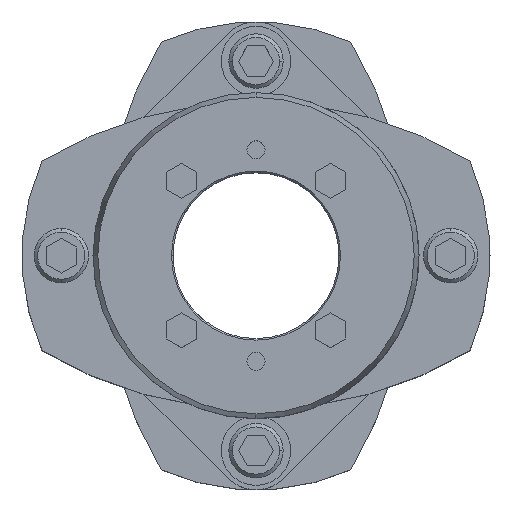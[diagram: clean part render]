
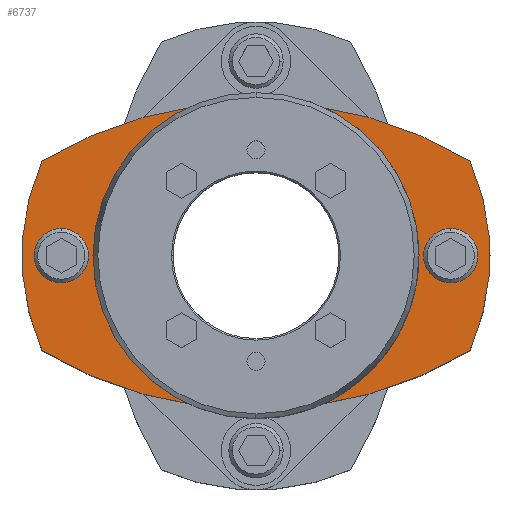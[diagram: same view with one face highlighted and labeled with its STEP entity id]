
A CAD part, top view. The second image highlights one B-rep face of the part: STEP entity #6737.
In plain terms, the highlighted planar face has unit normal (0, 0, 1).
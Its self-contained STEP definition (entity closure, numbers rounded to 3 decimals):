
#1593=CARTESIAN_POINT('',(0.,51.,42.0));
#1594=VERTEX_POINT('',#1593);
#1610=CARTESIAN_POINT('',(-70.841,31.43,42.0));
#1611=VERTEX_POINT('',#1610);
#1618=CARTESIAN_POINT('',(0.,-87.,42.0));
#1619=DIRECTION('',(0.0,0.0,-1.0));
#1620=DIRECTION('',(0.0,1.0,0.0));
#1621=AXIS2_PLACEMENT_3D('',#1618,#1619,#1620);
#1622=CIRCLE('',#1621,138.);
#1623=EDGE_CURVE('',#1611,#1594,#1622,.T.);
#1633=CARTESIAN_POINT('',(0.,-51.,42.0));
#1634=VERTEX_POINT('',#1633);
#1643=CARTESIAN_POINT('',(-70.841,-31.43,42.0));
#1644=VERTEX_POINT('',#1643);
#1645=CARTESIAN_POINT('',(0.,87.,42.0));
#1646=DIRECTION('',(0.0,0.0,-1.0));
#1647=DIRECTION('',(0.0,1.0,0.0));
#1648=AXIS2_PLACEMENT_3D('',#1645,#1646,#1647);
#1649=CIRCLE('',#1648,138.);
#1650=EDGE_CURVE('',#1634,#1644,#1649,.T.);
#1899=CARTESIAN_POINT('',(0.,41.,42.0));
#1900=VERTEX_POINT('',#1899);
#1950=CARTESIAN_POINT('',(0.,-41.,42.0));
#1951=VERTEX_POINT('',#1950);
#1958=CARTESIAN_POINT('',(0.,0.,42.0));
#1959=DIRECTION('',(0.0,0.0,-1.0));
#1960=DIRECTION('',(0.0,1.0,0.0));
#1961=AXIS2_PLACEMENT_3D('',#1958,#1959,#1960);
#1962=CIRCLE('',#1961,41.0);
#1963=EDGE_CURVE('',#1900,#1951,#1962,.T.);
#2059=CARTESIAN_POINT('',(-64.5,9.,42.0));
#2060=VERTEX_POINT('',#2059);
#2076=CARTESIAN_POINT('',(-64.5,-9.,42.0));
#2077=VERTEX_POINT('',#2076);
#2084=CARTESIAN_POINT('',(-64.5,0.,42.0));
#2085=DIRECTION('',(0.0,0.0,-1.0));
#2086=DIRECTION('',(0.0,1.0,0.0));
#2087=AXIS2_PLACEMENT_3D('',#2084,#2085,#2086);
#2088=CIRCLE('',#2087,9.0);
#2089=EDGE_CURVE('',#2060,#2077,#2088,.T.);
#2133=CARTESIAN_POINT('',(64.5,9.,42.0));
#2134=VERTEX_POINT('',#2133);
#2150=CARTESIAN_POINT('',(64.5,-9.,42.0));
#2151=VERTEX_POINT('',#2150);
#2158=CARTESIAN_POINT('',(64.5,0.,42.0));
#2159=DIRECTION('',(0.0,0.0,-1.0));
#2160=DIRECTION('',(0.0,1.0,0.0));
#2161=AXIS2_PLACEMENT_3D('',#2158,#2159,#2160);
#2162=CIRCLE('',#2161,9.0);
#2163=EDGE_CURVE('',#2134,#2151,#2162,.T.);
#5278=CARTESIAN_POINT('',(64.5,0.,42.0));
#5279=DIRECTION('',(0.0,0.0,-1.0));
#5280=DIRECTION('',(0.0,1.0,0.0));
#5281=AXIS2_PLACEMENT_3D('',#5278,#5279,#5280);
#5282=CIRCLE('',#5281,9.0);
#5283=EDGE_CURVE('',#2151,#2134,#5282,.T.);
#5338=CARTESIAN_POINT('',(-64.5,0.,42.0));
#5339=DIRECTION('',(0.0,0.0,-1.0));
#5340=DIRECTION('',(0.0,1.0,0.0));
#5341=AXIS2_PLACEMENT_3D('',#5338,#5339,#5340);
#5342=CIRCLE('',#5341,9.0);
#5343=EDGE_CURVE('',#2077,#2060,#5342,.T.);
#6410=CARTESIAN_POINT('',(0.,0.,42.0));
#6411=DIRECTION('',(0.0,0.0,-1.0));
#6412=DIRECTION('',(0.0,1.0,0.0));
#6413=AXIS2_PLACEMENT_3D('',#6410,#6411,#6412);
#6414=CIRCLE('',#6413,41.0);
#6415=EDGE_CURVE('',#1951,#1900,#6414,.T.);
#6631=CARTESIAN_POINT('',(70.841,31.43,42.0));
#6632=VERTEX_POINT('',#6631);
#6633=CARTESIAN_POINT('',(70.841,-31.43,42.0));
#6634=VERTEX_POINT('',#6633);
#6635=CARTESIAN_POINT('',(0.,0.,42.0));
#6636=DIRECTION('',(0.0,0.0,-1.0));
#6637=DIRECTION('',(0.0,1.0,0.0));
#6638=AXIS2_PLACEMENT_3D('',#6635,#6636,#6637);
#6639=CIRCLE('',#6638,77.5);
#6640=EDGE_CURVE('',#6632,#6634,#6639,.T.);
#6666=CARTESIAN_POINT('',(0.,87.,42.0));
#6667=DIRECTION('',(0.0,0.0,-1.0));
#6668=DIRECTION('',(0.0,1.0,0.0));
#6669=AXIS2_PLACEMENT_3D('',#6666,#6667,#6668);
#6670=CIRCLE('',#6669,138.);
#6671=EDGE_CURVE('',#6634,#1634,#6670,.T.);
#6681=CARTESIAN_POINT('',(0.,0.,42.0));
#6682=DIRECTION('',(0.0,0.0,-1.0));
#6683=DIRECTION('',(0.0,1.0,0.0));
#6684=AXIS2_PLACEMENT_3D('',#6681,#6682,#6683);
#6685=CIRCLE('',#6684,77.5);
#6686=EDGE_CURVE('',#1644,#1611,#6685,.T.);
#6700=CARTESIAN_POINT('',(0.,-87.,42.0));
#6701=DIRECTION('',(0.0,0.0,-1.0));
#6702=DIRECTION('',(0.0,1.0,0.0));
#6703=AXIS2_PLACEMENT_3D('',#6700,#6701,#6702);
#6704=CIRCLE('',#6703,138.);
#6705=EDGE_CURVE('',#1594,#6632,#6704,.T.);
#6712=CARTESIAN_POINT('',(0.,0.,42.0));
#6713=DIRECTION('',(0.0,0.0,1.0));
#6714=DIRECTION('',(0.0,1.0,0.0));
#6715=AXIS2_PLACEMENT_3D('',#6712,#6713,#6714);
#6716=PLANE('',#6715);
#6717=ORIENTED_EDGE('',*,*,#6640,.F.);
#6718=ORIENTED_EDGE('',*,*,#6705,.F.);
#6719=ORIENTED_EDGE('',*,*,#1623,.F.);
#6720=ORIENTED_EDGE('',*,*,#6686,.F.);
#6721=ORIENTED_EDGE('',*,*,#1650,.F.);
#6722=ORIENTED_EDGE('',*,*,#6671,.F.);
#6723=EDGE_LOOP('',(#6717,#6718,#6719,#6720,#6721,#6722));
#6724=FACE_OUTER_BOUND('',#6723,.T.);
#6725=ORIENTED_EDGE('',*,*,#2163,.T.);
#6726=ORIENTED_EDGE('',*,*,#5283,.T.);
#6727=EDGE_LOOP('',(#6725,#6726));
#6728=FACE_BOUND('',#6727,.T.);
#6729=ORIENTED_EDGE('',*,*,#2089,.T.);
#6730=ORIENTED_EDGE('',*,*,#5343,.T.);
#6731=EDGE_LOOP('',(#6729,#6730));
#6732=FACE_BOUND('',#6731,.T.);
#6733=ORIENTED_EDGE('',*,*,#1963,.T.);
#6734=ORIENTED_EDGE('',*,*,#6415,.T.);
#6735=EDGE_LOOP('',(#6733,#6734));
#6736=FACE_BOUND('',#6735,.T.);
#6737=ADVANCED_FACE('',(#6724,#6728,#6732,#6736),#6716,.T.);
